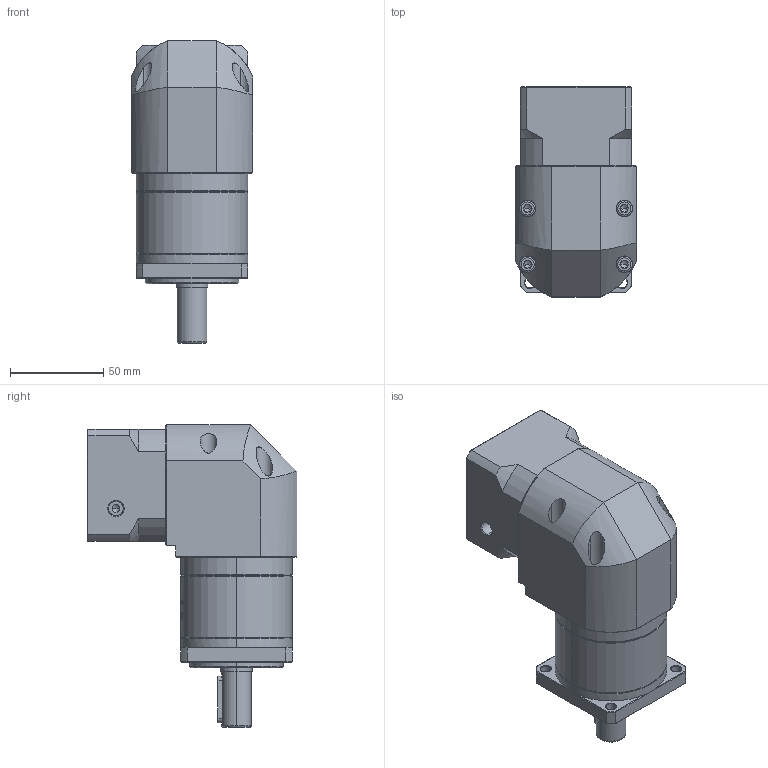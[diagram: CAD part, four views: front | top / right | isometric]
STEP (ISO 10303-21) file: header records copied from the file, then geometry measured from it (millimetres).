
FILE_DESCRIPTION (( 'STEP AP214' ), '1' );
FILE_NAME ('ZFR060-D16-L1-P2-8-38.1-47.14x47.14-M4.step', '2023-08-17T03:34:22', ( '' ), ( '' ), 'SwSTEP 2.0', 'SolidWorks 2016', '' );
FILE_SCHEMA (( 'AUTOMOTIVE_DESIGN' ));
Length unit declared in the file: millimetre
Products named in the file (1): ZFR060-D16-L1-P2-8-38.1-47.14x47.14-M4
Bounding box: 65 x 112.7 x 162.5 mm (x, y, z)
Volume: 543406.1 mm3; surface area: 79915.9 mm2
Topology: 5 solids, 6 shells, 1917 faces, 5135 edges, 3316 vertices
Faces by surface type: plane 848, cylinder 401, bspline 354, cone 290, torus 24
Entity records: 104299 total; most frequent: CARTESIAN_POINT 39423, ORIENTED_EDGE 10226, DIRECTION 7664, EDGE_CURVE 5113, VERTEX_POINT 3316, LINE 2596, VECTOR 2596, AXIS2_PLACEMENT_3D 2534
